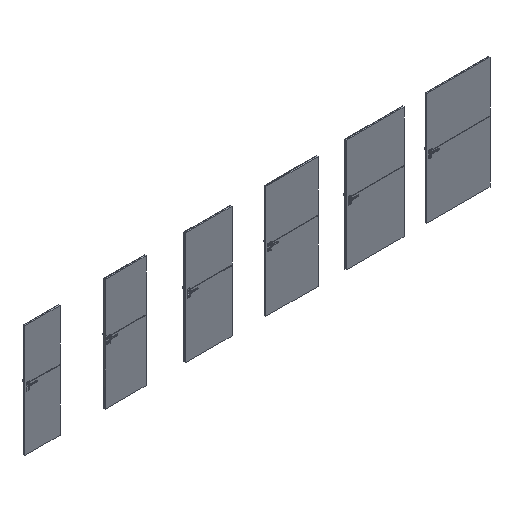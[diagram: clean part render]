
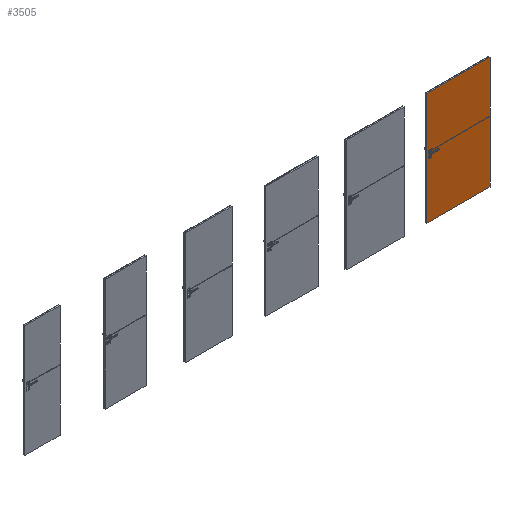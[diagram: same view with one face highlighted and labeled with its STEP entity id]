
A CAD part, isometric view. The second image highlights one B-rep face of the part: STEP entity #3505.
In plain terms, the highlighted planar face has unit normal (0, -1, 0).
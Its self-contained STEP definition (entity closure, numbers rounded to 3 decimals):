
#2187=CIRCLE('',#20566,3.);
#3505=ADVANCED_FACE('',(#5161),#4047,.F.);
#4047=PLANE('',#20567);
#5161=FACE_OUTER_BOUND('',#6421,.T.);
#6421=EDGE_LOOP('',(#11575,#11576,#11577,#11578,#11579,#11580,#11581,#11582));
#11575=ORIENTED_EDGE('',*,*,#15799,.F.);
#11576=ORIENTED_EDGE('',*,*,#15800,.T.);
#11577=ORIENTED_EDGE('',*,*,#15801,.T.);
#11578=ORIENTED_EDGE('',*,*,#15802,.T.);
#11579=ORIENTED_EDGE('',*,*,#15803,.F.);
#11580=ORIENTED_EDGE('',*,*,#15804,.F.);
#11581=ORIENTED_EDGE('',*,*,#15805,.T.);
#11582=ORIENTED_EDGE('',*,*,#15806,.T.);
#13199=VERTEX_POINT('',#39298);
#13200=VERTEX_POINT('',#39299);
#13201=VERTEX_POINT('',#39301);
#13202=VERTEX_POINT('',#39303);
#13203=VERTEX_POINT('',#39305);
#13204=VERTEX_POINT('',#39307);
#13205=VERTEX_POINT('',#39309);
#13206=VERTEX_POINT('',#39311);
#15799=EDGE_CURVE('',#13199,#13200,#17291,.T.);
#15800=EDGE_CURVE('',#13199,#13201,#17292,.T.);
#15801=EDGE_CURVE('',#13201,#13202,#2187,.T.);
#15802=EDGE_CURVE('',#13202,#13203,#17293,.T.);
#15803=EDGE_CURVE('',#13204,#13203,#17294,.T.);
#15804=EDGE_CURVE('',#13205,#13204,#17295,.T.);
#15805=EDGE_CURVE('',#13205,#13206,#17296,.T.);
#15806=EDGE_CURVE('',#13206,#13200,#17297,.T.);
#17291=LINE('',#39297,#18779);
#17292=LINE('',#39300,#18780);
#17293=LINE('',#39304,#18781);
#17294=LINE('',#39306,#18782);
#17295=LINE('',#39308,#18783);
#17296=LINE('',#39310,#18784);
#17297=LINE('',#39312,#18785);
#18779=VECTOR('',#25518,1.);
#18780=VECTOR('',#25519,1.);
#18781=VECTOR('',#25522,1.);
#18782=VECTOR('',#25523,1.);
#18783=VECTOR('',#25524,1.);
#18784=VECTOR('',#25525,1.);
#18785=VECTOR('',#25526,1.);
#20566=AXIS2_PLACEMENT_3D('',#39302,#25520,#25521);
#20567=AXIS2_PLACEMENT_3D('',#39313,#25527,#25528);
#25518=DIRECTION('',(0.,0.,-1.));
#25519=DIRECTION('',(-1.,0.,0.));
#25520=DIRECTION('',(0.,1.,0.));
#25521=DIRECTION('',(1.,0.,0.));
#25522=DIRECTION('',(1.,0.,0.));
#25523=DIRECTION('',(0.,0.,-1.));
#25524=DIRECTION('',(1.,0.,0.));
#25525=DIRECTION('',(0.,0.,-1.));
#25526=DIRECTION('',(1.,0.,0.));
#25527=DIRECTION('',(0.,1.,0.));
#25528=DIRECTION('',(-1.,0.,0.));
#39297=CARTESIAN_POINT('',(8069.5,-39.3,2027.));
#39298=CARTESIAN_POINT('',(8069.5,-39.3,1101.));
#39299=CARTESIAN_POINT('',(8069.5,-39.3,0.));
#39300=CARTESIAN_POINT('',(8069.5,-39.3,1101.));
#39301=CARTESIAN_POINT('',(7024.5,-39.3,1101.));
#39302=CARTESIAN_POINT('',(7024.5,-39.3,1104.));
#39303=CARTESIAN_POINT('',(7024.5,-39.3,1107.));
#39304=CARTESIAN_POINT('',(7024.5,-39.3,1107.));
#39305=CARTESIAN_POINT('',(8069.5,-39.3,1107.));
#39306=CARTESIAN_POINT('',(8069.5,-39.3,2027.));
#39307=CARTESIAN_POINT('',(8069.5,-39.3,2027.));
#39308=CARTESIAN_POINT('',(7180.5,-39.3,2027.));
#39309=CARTESIAN_POINT('',(6930.5,-39.3,2027.));
#39310=CARTESIAN_POINT('',(6930.5,-39.3,2027.));
#39311=CARTESIAN_POINT('',(6930.5,-39.3,0.));
#39312=CARTESIAN_POINT('',(7180.5,-39.3,0.));
#39313=CARTESIAN_POINT('',(7180.5,-39.3,2027.));
